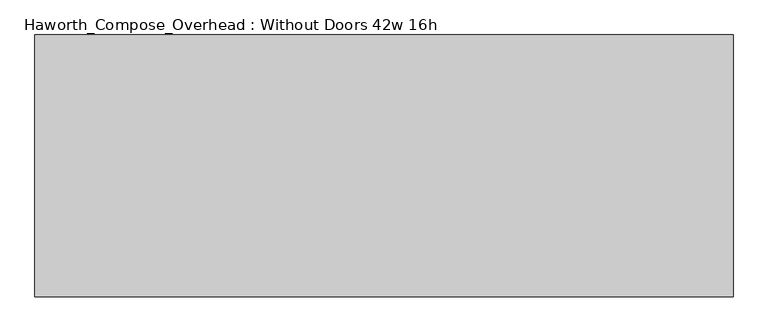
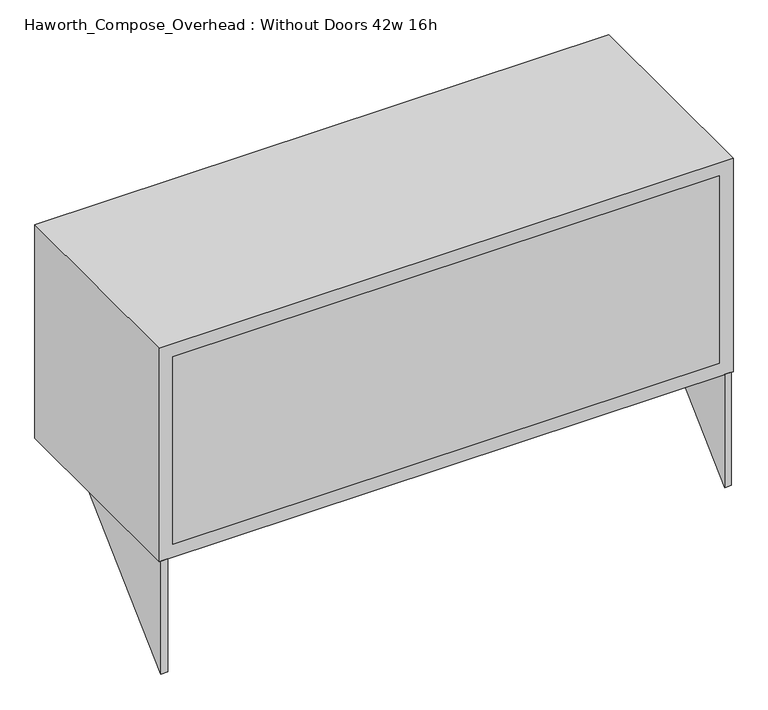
"""IFC4 building model written with IfcOpenShell, lengths in millimetres: furniture geometry, Haworth_Compose_Overhead : Without Doors 42w 16h."""

from ifc_helpers import new_model, si_unit, frame, origin, place, context, project, spatial, polyline, outline, extrude, source, transform, mapped, element, save


def haworth_compose_overhead_without_doors_42w_16h_cf1af154(model_context):
    return source(origin(), model_context, "Body", "SweptSolid", [
        extrude(outline(polyline([(0.0, 1270.0), (234.95, 1270.0), (0.0, 1047.75), (0.0, 1270.0)])), frame((682.625, 0.0, 0.0), z_axis=(1.0, 0.0, 0.0), x_axis=(0.0, 1.0, 0.0)), (0.0, 0.0, 1.0), 12.7),
        extrude(outline(polyline([(0.0, 1270.0), (234.95, 1270.0), (0.0, 1047.75), (0.0, 1270.0)])), frame((-365.125, 0.0, 0.0), z_axis=(1.0, 0.0, 0.0), x_axis=(0.0, 1.0, 0.0)), (0.0, 0.0, 1.0), 12.7),
        extrude(outline(polyline([(673.1, 6.35), (673.1, 0.0), (-342.9, 0.0), (-342.9, 6.35), (673.1, 6.35)])), frame((0.0, 0.0, 1295.4), z_axis=(0.0, 0.0, 1.0), x_axis=(1.0, 0.0, 0.0)), (0.0, 0.0, 1.0), 368.3),
        extrude(outline(polyline([(1270.0, 698.5), (1689.1, 698.5), (1689.1, -368.3), (1270.0, -368.3), (1270.0, 698.5)]), holes=[polyline([(1663.7, 673.1), (1295.4, 673.1), (1295.4, -342.9), (1663.7, -342.9), (1663.7, 673.1)])]), frame((0.0, 0.0, 0.0), z_axis=(0.0, 1.0, 0.0), x_axis=(0.0, 0.0, 1.0)), (0.0, 0.0, 1.0), 400.05),
    ])


if __name__ == "__main__":
    model = new_model("IFC4")
    model_context = context("Model", 3, world=origin())
    ifc_project = project(units=[si_unit("LENGTHUNIT", "METRE", prefix="MILLI")], contexts=[model_context])
    site = spatial("IfcSite", under=ifc_project)
    building = spatial("IfcBuilding", under=site)
    placement = place(None, origin())
    haworth_compose_overhead_without_doors_42w_16h_shape = haworth_compose_overhead_without_doors_42w_16h_cf1af154(model_context)
    element("IfcFurniture", 1, ObjectType="Haworth_Compose_Overhead : Without Doors 42w 16h", at=placement, inside=building, context=model_context, shape_type="MappedRepresentation", body=[
        mapped(haworth_compose_overhead_without_doors_42w_16h_shape, transform((0.0, 0.0, 0.0), x_axis=(1.0, 0.0, 0.0), y_axis=(0.0, 1.0, 0.0), z_axis=(0.0, 0.0, 1.0))),
    ])
    save(model, "model.ifc")
